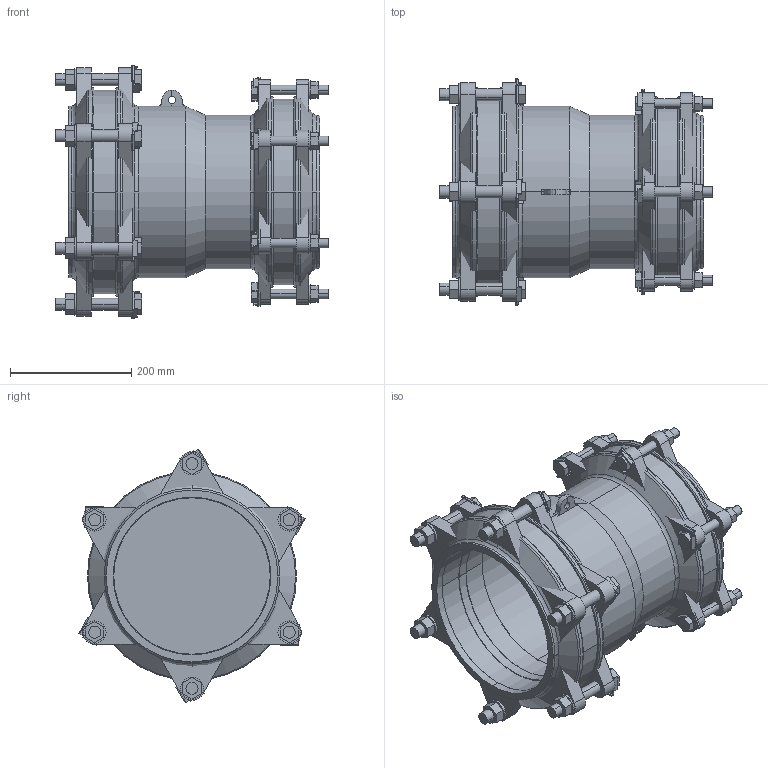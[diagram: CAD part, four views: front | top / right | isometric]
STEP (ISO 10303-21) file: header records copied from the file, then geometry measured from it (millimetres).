
FILE_DESCRIPTION(('STEP AP214'),'1');
FILE_NAME('MJ00006156 DN 225-200.STP','2015-02-06T12:21:58',(' '),(' '),'Spatial InterOp 3D',' ',' ');
FILE_SCHEMA(('automotive_design'));
Length unit declared in the file: millimetre
Products named in the file (85): 3D-Objekt
Bounding box: 450 x 373.46 x 417.96 mm (x, y, z)
Volume: 10160943.3 mm3; surface area: 1959451.1 mm2
Topology: 85 solids, 85 shells, 782 faces, 1758 edges, 1168 vertices
Faces by surface type: plane 560, cylinder 174, cone 24, torus 24
Entity records: 29995 total; most frequent: DIRECTION 3948, CARTESIAN_POINT 3793, ORIENTED_EDGE 3516, EDGE_CURVE 1758, AXIS2_PLACEMENT_3D 1323, LINE 1302, VECTOR 1302, VERTEX_POINT 1168
